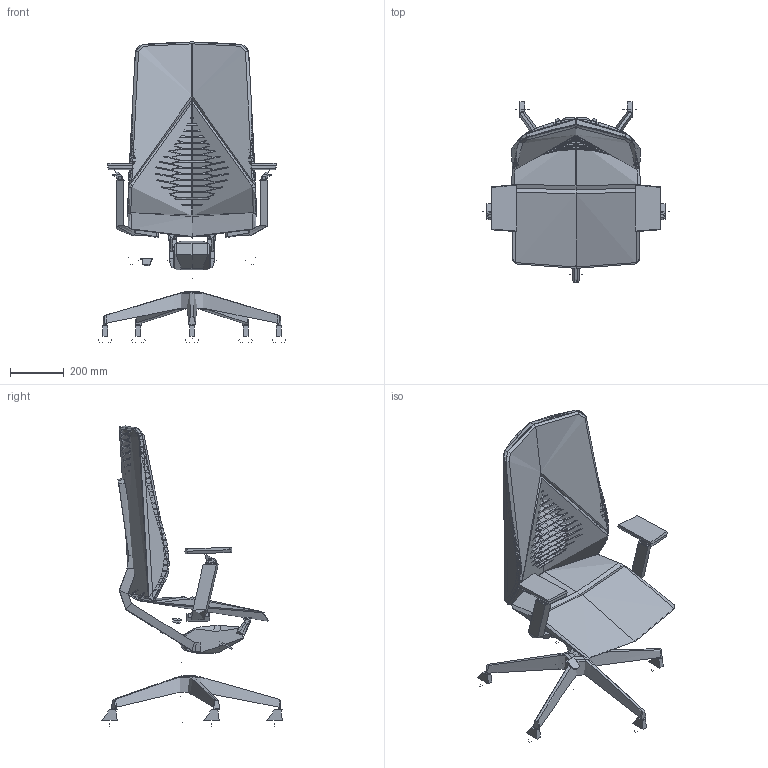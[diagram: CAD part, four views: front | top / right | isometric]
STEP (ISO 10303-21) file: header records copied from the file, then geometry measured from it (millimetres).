
FILE_DESCRIPTION(/* description */ (''),/* implementation_level */ '2;1');
FILE_NAME(/* name */ 'FollowMe 452-SYQ,BR212,F12,V1',/* time_stamp */ '2023-05-03T16:57:33+02:00',/* author */ (''),/* organization */ (''),/* preprocessor_version */ 'ST-DEVELOPER v16.5',/* originating_system */ 'Rhino 7.28',/* authorisation */ '');
FILE_SCHEMA (('CONFIG_CONTROL_DESIGN'));
Products named in the file (1): Document
Bounding box: 696.72 x 672.99 x 1118.31 mm (x, y, z)
Volume: 1832099.3 mm3; surface area: 3602539.9 mm2
Topology: 17 solids, 88 shells, 3192 faces, 9251 edges, 6075 vertices
Faces by surface type: plane 2386, bspline 718, cylinder 88
Full cylindrical faces by diameter (mm): 11 x5, 12 x4, 18 x2, 25 x3, 28 x1, 30 x3, 32 x2, 46 x1, 50 x4, 57 x1
Entity records: 223695 total; most frequent: CARTESIAN_POINT 163681, ORIENTED_EDGE 17979, EDGE_CURVE 9243, B_SPLINE_CURVE_WITH_KNOTS 8517, VERTEX_POINT 6075, EDGE_LOOP 3409, ADVANCED_FACE 3192, FACE_OUTER_BOUND 3192
